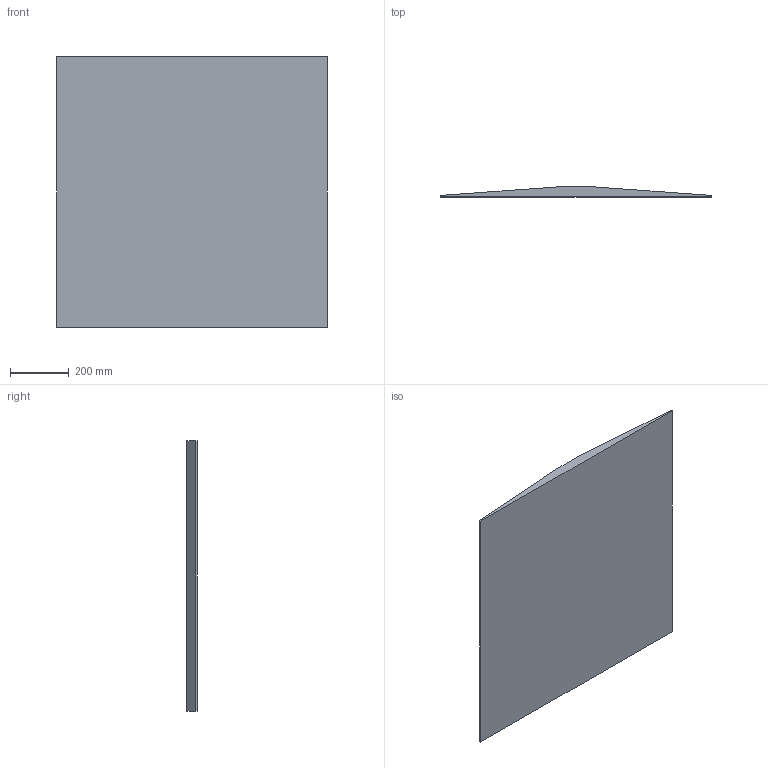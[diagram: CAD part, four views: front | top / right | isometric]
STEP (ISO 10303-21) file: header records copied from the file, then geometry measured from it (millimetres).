
FILE_DESCRIPTION (( 'STEP AP214' ), '1' );
FILE_NAME ('BL1-19-WR.STEP', '2024-09-21T23:33:45', ( '' ), ( '' ), 'SwSTEP 2.0', 'SolidWorks 2024', '' );
FILE_SCHEMA (( 'AUTOMOTIVE_DESIGN' ));
Length unit declared in the file: millimetre
Products named in the file (1): BL1-19-WR
Bounding box: 920 x 35 x 920 mm (x, y, z)
Volume: 18237673.8 mm3; surface area: 1759701.5 mm2
Topology: 1 solids, 1 shells, 104 faces, 267 edges, 178 vertices
Faces by surface type: plane 83, bspline 21
Entity records: 4292 total; most frequent: CARTESIAN_POINT 1875, ORIENTED_EDGE 534, DIRECTION 393, EDGE_CURVE 267, VECTOR 225, LINE 225, VERTEX_POINT 178, EDGE_LOOP 117
